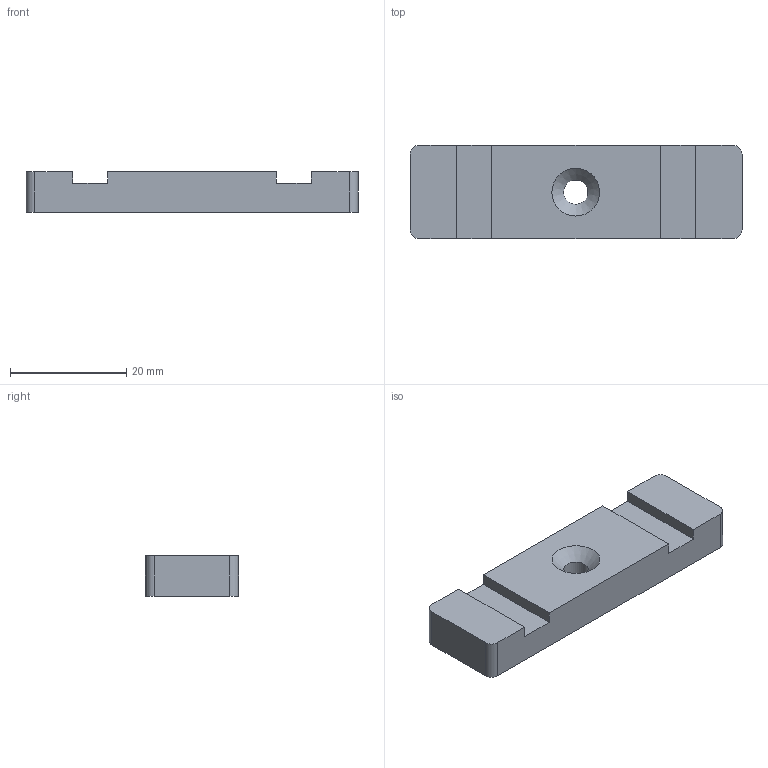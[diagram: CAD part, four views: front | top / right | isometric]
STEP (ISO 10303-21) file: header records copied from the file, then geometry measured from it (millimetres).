
FILE_DESCRIPTION(/* description */ ('Unknown'),/* implementation_level */ '2;1');
FILE_NAME(/* name */ 'display-tie-O',/* time_stamp */ '2024-10-03T12:27:12-05:00',/* author */ ('Unknown'),/* organization */ ('Unknown'),/* preprocessor_version */ 'ST-DEVELOPER v18.102',/* originating_system */ 'Solid Edge',/* authorisation */ 'Unknown');
FILE_SCHEMA (('AUTOMOTIVE_DESIGN {1 0 10303 214 3 1 1}'));
Length unit declared in the file: millimetre
Products named in the file (1): display-tie-O
Bounding box: 57 x 16 x 7 mm (x, y, z)
Volume: 5854.7 mm3; surface area: 2958.5 mm2
Topology: 1 solids, 1 shells, 20 faces, 55 edges, 37 vertices
Faces by surface type: plane 14, cylinder 5, cone 1
Full cylindrical faces by diameter (mm): 4.2 x1
Entity records: 644 total; most frequent: CARTESIAN_POINT 107, DIRECTION 104, ORIENTED_EDGE 102, EDGE_CURVE 51, LINE 40, VECTOR 40, VERTEX_POINT 35, AXIS2_PLACEMENT_3D 32
